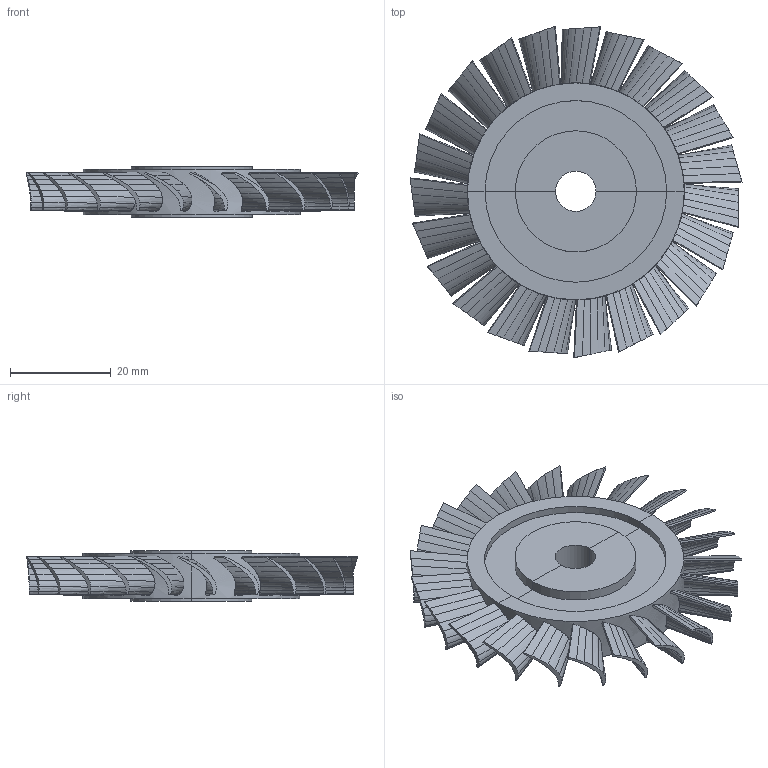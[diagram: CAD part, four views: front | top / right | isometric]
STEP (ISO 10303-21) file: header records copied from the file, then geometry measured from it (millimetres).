
FILE_DESCRIPTION(('BendCAD AP242 PMI export'),'2;1');
FILE_NAME('bendcad.step','',('BendCAD'),('BendCAD'),'BendCAD','BendCAD','');
FILE_SCHEMA(('AP242_MANAGED_MODEL_BASED_3D_ENGINEERING_MIM_LF'));
Products named in the file (1): BENDCAD
Bounding box: 65.8 x 65.7 x 10 mm (x, y, z)
Volume: 13376.9 mm3; surface area: 10303.4 mm2
Topology: 1 solids, 1 shells, 485 faces, 4589 edges, 4125 vertices
Faces by surface type: bspline 437, plane 35, cylinder 13
Entity records: 53228 total; most frequent: CARTESIAN_POINT 27554, ORIENTED_EDGE 9178, EDGE_CURVE 4589, VERTEX_POINT 4125, B_SPLINE_CURVE_WITH_KNOTS 4091, DIRECTION 620, EDGE_LOOP 506, FACE_OUTER_BOUND 485
